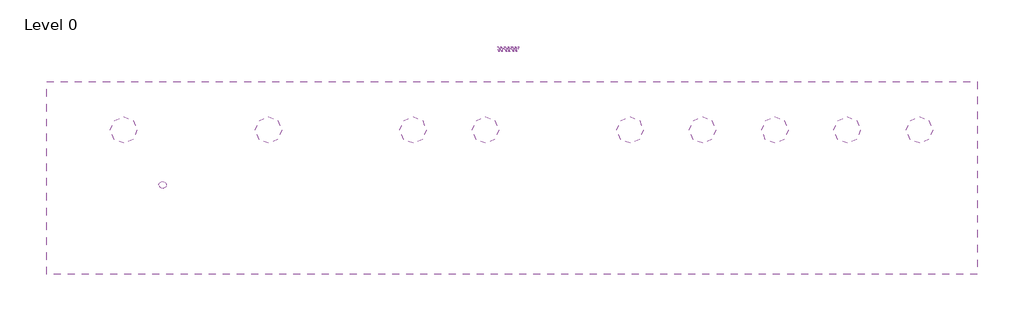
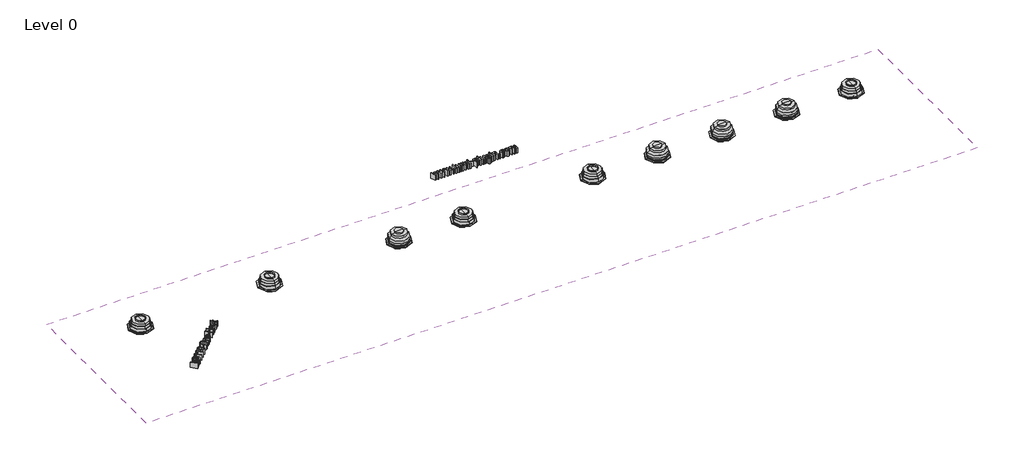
# One storey, incomplete: 9 light fixtures, 2 proxies, 1 covering.
"""IFC4 building model written with IfcOpenShell, lengths in millimetres."""

from ifc_helpers import new_model, si_unit, frame, origin, place, context, project, spatial, polyline, outline, extrude, transform, mapped, element, save
from components import light_fixture_3000k_4c776d6b, lp110_co_3000_k_61e16603, lp110_downlight_only_3000k_c44f5da2, lp110_emergency_co_3000_k_3e72ed9b, lp110_emergency_fl_3000_k_65061e34, lp110_pir_3000k_2e62d450, lp110_sprinkler_3000k_38dead4c, ls110_mains_smoke_one_smoke_8b9af0ea

model = new_model("IFC4")

# Units and contexts
model_context = context("Model", 3, world=origin())
ifc_project = project(units=[si_unit("LENGTHUNIT", "METRE", prefix="MILLI")], contexts=[model_context])

# Site, building, storey
site = spatial("IfcSite", under=ifc_project)
building = spatial("IfcBuilding", under=site)
storey = spatial("IfcBuildingStorey", under=building, Name="Level 0", Elevation=0.0)

# Proxies
placement = place(None, origin())
element("IfcBuildingElementProxy", 1, Name="30mm Arial", ObjectType="30mm Arial", at=placement, inside=storey, context=model_context, shape_type="SweptSolid", body=[
    extrude(outline(polyline([(-832.6158584, 833.9170129), (-839.3480989, 856.0487937), (-835.4338345, 856.0487937), (-831.6152194, 843.1361357), (-830.4747852, 838.5228955), (-829.540365, 842.96691), (-826.5016597, 856.0487937), (-822.0134993, 856.0487937), (-818.9895093, 843.0036982), (-818.158096, 838.9790692), (-816.9661584, 843.2244274), (-813.1401856, 856.0487937), (-809.2112059, 856.0487937), (-815.9949499, 833.9170129), (-820.549329, 833.9170129), (-823.4408815, 846.8958897), (-824.2796524, 850.9425916), (-828.0099759, 833.9170129), (-832.6158584, 833.9170129)])), frame((0.0, 0.0, 2575.0), z_axis=(0.0, 0.0, 1.0), x_axis=(1.0, 0.0, 0.0)), (0.0, 0.0, 1.0), 25.0),
    extrude(outline(polyline([(-802.9498543, 833.9170129), (-809.6820949, 856.0487937), (-805.7678304, 856.0487937), (-801.9492153, 843.1361357), (-800.8087811, 838.5228955), (-799.8743609, 842.96691), (-796.8356556, 856.0487937), (-792.3474952, 856.0487937), (-789.3235052, 843.0036982), (-788.4920919, 838.9790692), (-787.3001543, 843.2244274), (-783.4741815, 856.0487937), (-779.5452018, 856.0487937), (-786.3289458, 833.9170129), (-790.8833249, 833.9170129), (-793.7748774, 846.8958897), (-794.6136483, 850.9425916), (-798.3439718, 833.9170129), (-802.9498543, 833.9170129)])), frame((0.0, 0.0, 2575.0), z_axis=(0.0, 0.0, 1.0), x_axis=(1.0, 0.0, 0.0)), (0.0, 0.0, 1.0), 25.0),
    extrude(outline(polyline([(-773.2838503, 833.9170129), (-780.0160908, 856.0487937), (-776.1018263, 856.0487937), (-772.2832112, 843.1361357), (-771.142777, 838.5228955), (-770.2083568, 842.96691), (-767.1696515, 856.0487937), (-762.6814912, 856.0487937), (-759.6575012, 843.0036982), (-758.8260878, 838.9790692), (-757.6341502, 843.2244274), (-753.8081774, 856.0487937), (-749.8791977, 856.0487937), (-756.6629417, 833.9170129), (-761.2173208, 833.9170129), (-764.1088733, 846.8958897), (-764.9476442, 850.9425916), (-768.6779677, 833.9170129), (-773.2838503, 833.9170129)])), frame((0.0, 0.0, 2575.0), z_axis=(0.0, 0.0, 1.0), x_axis=(1.0, 0.0, 0.0)), (0.0, 0.0, 1.0), 25.0),
    extrude(outline(polyline([(-746.3475306, 833.9170129), (-746.3475306, 837.6841245), (-742.5804189, 837.6841245), (-742.5804189, 833.9170129), (-746.3475306, 833.9170129)])), frame((0.0, 0.0, 2575.0), z_axis=(0.0, 0.0, 1.0), x_axis=(1.0, 0.0, 0.0)), (0.0, 0.0, 1.0), 25.0),
    extrude(outline(polyline([(-735.5170846, 833.9170129), (-735.5170846, 864.053906), (-731.749973, 864.053906), (-731.749973, 833.9170129), (-735.5170846, 833.9170129)])), frame((0.0, 0.0, 2575.0), z_axis=(0.0, 0.0, 1.0), x_axis=(1.0, 0.0, 0.0)), (0.0, 0.0, 1.0), 25.0),
    extrude(outline(polyline([(-711.9726369, 833.9170129), (-711.9726369, 837.7209127), (-718.7710962, 833.446124), (-722.3137998, 834.1966032), (-724.7565363, 836.080159), (-725.8785764, 838.8539893), (-726.0993056, 842.3562259), (-726.0993056, 856.0487937), (-722.3321939, 856.0487937), (-722.3321939, 844.1294171), (-722.1041071, 840.2887291), (-720.614185, 838.0336124), (-717.8072454, 837.2132356), (-714.6618543, 838.0520065), (-712.583321, 840.3365537), (-711.9726369, 844.5340873), (-711.9726369, 856.0487937), (-708.2055253, 856.0487937), (-708.2055253, 833.9170129), (-711.9726369, 833.9170129)])), frame((0.0, 0.0, 2575.0), z_axis=(0.0, 0.0, 1.0), x_axis=(1.0, 0.0, 0.0)), (0.0, 0.0, 1.0), 25.0),
    extrude(outline(polyline([(-703.0257468, 833.9170129), (-703.0257468, 856.0487937), (-699.2586352, 856.0487937), (-699.2586352, 852.406762), (-696.6687459, 855.390285), (-692.9825683, 856.5196827), (-689.2080991, 855.368212), (-687.1332446, 852.1418869), (-680.4819382, 856.5196827), (-675.5559982, 854.6986668), (-673.8306317, 849.0884664), (-673.8306317, 833.9170129), (-677.5977433, 833.9170129), (-677.5977433, 847.4697856), (-677.9472312, 850.6151767), (-679.2127453, 852.1639599), (-681.3648549, 852.7525711), (-685.0694266, 851.2442549), (-686.5446334, 846.4102855), (-686.5446334, 833.9170129), (-690.3117451, 833.9170129), (-690.3117451, 847.8891711), (-691.1836254, 851.5385605), (-694.0420685, 852.7525711), (-696.830614, 851.9432307), (-698.6847393, 849.5740706), (-699.2586352, 845.0785526), (-699.2586352, 833.9170129), (-703.0257468, 833.9170129)])), frame((0.0, 0.0, 2575.0), z_axis=(0.0, 0.0, 1.0), x_axis=(1.0, 0.0, 0.0)), (0.0, 0.0, 1.0), 25.0),
    extrude(outline(polyline([(-668.1799642, 860.2867943), (-668.1799642, 864.053906), (-664.4128526, 864.053906), (-664.4128526, 860.2867943), (-668.1799642, 860.2867943)])), frame((0.0, 0.0, 2575.0), z_axis=(0.0, 0.0, 1.0), x_axis=(1.0, 0.0, 0.0)), (0.0, 0.0, 1.0), 25.0),
    extrude(outline(polyline([(-668.1799642, 833.9170129), (-668.1799642, 856.0487937), (-664.4128526, 856.0487937), (-664.4128526, 833.9170129), (-668.1799642, 833.9170129)])), frame((0.0, 0.0, 2575.0), z_axis=(0.0, 0.0, 1.0), x_axis=(1.0, 0.0, 0.0)), (0.0, 0.0, 1.0), 25.0),
    extrude(outline(polyline([(-660.645741, 842.863903), (-660.645741, 846.6310147), (-648.8735171, 846.6310147), (-648.8735171, 842.863903), (-660.645741, 842.863903)])), frame((0.0, 0.0, 2575.0), z_axis=(0.0, 0.0, 1.0), x_axis=(1.0, 0.0, 0.0)), (0.0, 0.0, 1.0), 25.0),
    extrude(outline(polyline([(-644.6355165, 825.4410117), (-644.6355165, 856.0487937), (-640.8684049, 856.0487937), (-640.8684049, 852.3552585), (-638.2638004, 855.4785766), (-634.7468485, 856.5196827), (-629.9717402, 855.06287), (-626.8521009, 850.9573069), (-625.7999584, 845.152129), (-626.9882172, 839.0489667), (-630.4389503, 834.8919002), (-635.2030222, 833.446124), (-638.4808508, 834.4136536), (-640.8684049, 836.8600689), (-640.8684049, 825.4410117), (-644.6355165, 825.4410117)]), holes=[polyline([(-640.8684049, 844.80632), (-639.2386877, 839.0673608), (-635.2839562, 837.2132356), (-631.2482907, 839.1335796), (-629.56707, 845.0859103), (-631.2078237, 850.8395847), (-635.1294458, 852.7525711), (-639.1283231, 850.7181836), (-640.8684049, 844.80632)])]), frame((0.0, 0.0, 2575.0), z_axis=(0.0, 0.0, 1.0), x_axis=(1.0, 0.0, 0.0)), (0.0, 0.0, 1.0), 25.0),
    extrude(outline(polyline([(-621.5619578, 833.9170129), (-621.5619578, 864.053906), (-617.7948462, 864.053906), (-617.7948462, 833.9170129), (-621.5619578, 833.9170129)])), frame((0.0, 0.0, 2575.0), z_axis=(0.0, 0.0, 1.0), x_axis=(1.0, 0.0, 0.0)), (0.0, 0.0, 1.0), 25.0),
    extrude(outline(polyline([(-598.0175101, 833.9170129), (-598.0175101, 837.7209127), (-604.8159694, 833.446124), (-608.358673, 834.1966032), (-610.8014094, 836.080159), (-611.9234495, 838.8539893), (-612.1441787, 842.3562259), (-612.1441787, 856.0487937), (-608.3770671, 856.0487937), (-608.3770671, 844.1294171), (-608.1489803, 840.2887291), (-606.6590582, 838.0336124), (-603.8521186, 837.2132356), (-600.7067275, 838.0520065), (-598.6281942, 840.3365537), (-598.0175101, 844.5340873), (-598.0175101, 856.0487937), (-594.2503985, 856.0487937), (-594.2503985, 833.9170129), (-598.0175101, 833.9170129)])), frame((0.0, 0.0, 2575.0), z_axis=(0.0, 0.0, 1.0), x_axis=(1.0, 0.0, 0.0)), (0.0, 0.0, 1.0), 25.0),
    extrude(outline(polyline([(-590.0123979, 832.0334571), (-586.2452863, 831.5625681), (-585.023918, 829.5760054), (-581.367171, 828.7372344), (-577.5117677, 829.68637), (-575.6723577, 832.3498356), (-575.4148403, 836.7423466), (-581.3009523, 833.9170129), (-588.0810174, 837.2058779), (-590.4832869, 845.0932679), (-589.4053926, 850.9315552), (-586.2857533, 855.06287), (-581.4848932, 856.5196827), (-575.4148403, 853.22346), (-575.4148403, 856.0487937), (-571.6477287, 856.0487937), (-571.6477287, 836.9410029), (-572.6777983, 829.62383), (-575.9409116, 826.2209216), (-581.4407474, 824.9701228), (-587.7057778, 826.7322775), (-590.0123979, 832.0334571)]), holes=[polyline([(-586.7161752, 845.3507853), (-585.1085309, 839.5198557), (-581.0728654, 837.6841245), (-577.0445576, 839.5088192), (-575.4148403, 845.2404207), (-577.0923822, 850.8579788), (-581.1317265, 852.7525711), (-585.086458, 850.8874093), (-586.7161752, 845.3507853)])]), frame((0.0, 0.0, 2575.0), z_axis=(0.0, 0.0, 1.0), x_axis=(1.0, 0.0, 0.0)), (0.0, 0.0, 1.0), 25.0),
    extrude(outline(polyline([(-565.9970613, 860.2867943), (-565.9970613, 864.053906), (-562.2299496, 864.053906), (-562.2299496, 860.2867943), (-565.9970613, 860.2867943)])), frame((0.0, 0.0, 2575.0), z_axis=(0.0, 0.0, 1.0), x_axis=(1.0, 0.0, 0.0)), (0.0, 0.0, 1.0), 25.0),
    extrude(outline(polyline([(-565.9970613, 833.9170129), (-565.9970613, 856.0487937), (-562.2299496, 856.0487937), (-562.2299496, 833.9170129), (-565.9970613, 833.9170129)])), frame((0.0, 0.0, 2575.0), z_axis=(0.0, 0.0, 1.0), x_axis=(1.0, 0.0, 0.0)), (0.0, 0.0, 1.0), 25.0),
    extrude(outline(polyline([(-556.5792822, 833.9170129), (-556.5792822, 856.0487937), (-552.8121705, 856.0487937), (-552.8121705, 852.958585), (-545.998996, 856.5196827), (-542.4415771, 855.8023128), (-540.0135559, 853.918757), (-538.8841582, 851.1486056), (-538.6855019, 847.5065738), (-538.6855019, 833.9170129), (-542.4526136, 833.9170129), (-542.4526136, 846.9988967), (-542.8867143, 850.3319075), (-544.4207822, 852.0940623), (-547.0069927, 852.7525711), (-551.0941616, 851.2736854), (-552.8121705, 845.6598062), (-552.8121705, 833.9170129), (-556.5792822, 833.9170129)])), frame((0.0, 0.0, 2575.0), z_axis=(0.0, 0.0, 1.0), x_axis=(1.0, 0.0, 0.0)), (0.0, 0.0, 1.0), 25.0),
    extrude(outline(polyline([(-532.5639455, 833.9170129), (-532.5639455, 837.6841245), (-528.7968339, 837.6841245), (-528.7968339, 833.9170129), (-532.5639455, 833.9170129)])), frame((0.0, 0.0, 2575.0), z_axis=(0.0, 0.0, 1.0), x_axis=(1.0, 0.0, 0.0)), (0.0, 0.0, 1.0), 25.0),
    extrude(outline(polyline([(-507.606831, 841.9221251), (-503.8397193, 841.4512362), (-506.8637093, 835.5688031), (-512.8381129, 833.446124), (-519.9787025, 836.407574), (-522.6752775, 844.9019693), (-521.5238069, 851.159642), (-518.0142126, 855.1805922), (-512.8896164, 856.5196827), (-507.1616938, 854.6802727), (-504.3106083, 849.4563484), (-508.0777199, 848.9854594), (-509.8251594, 851.8071143), (-512.8601859, 852.7525711), (-517.2269452, 850.8910882), (-518.9081659, 845.0049762), (-517.2637334, 839.063682), (-512.9631928, 837.2132356), (-509.4131316, 838.3683851), (-507.606831, 841.9221251)])), frame((0.0, 0.0, 2575.0), z_axis=(0.0, 0.0, 1.0), x_axis=(1.0, 0.0, 0.0)), (0.0, 0.0, 1.0), 25.0),
    extrude(outline(polyline([(-501.4852746, 844.9829033), (-498.2258401, 854.0695886), (-491.5892489, 856.5196827), (-484.4707323, 853.5361597), (-481.7079385, 845.2919242), (-482.9293067, 838.5891142), (-486.4867256, 834.7962509), (-491.5892489, 833.446124), (-498.7519114, 836.4186105), (-501.4852746, 844.9829033)]), holes=[polyline([(-497.7181629, 844.990261), (-495.9744023, 839.1519737), (-491.5892489, 837.2132356), (-487.2188108, 839.1630102), (-485.4750501, 845.1079832), (-487.2298473, 850.8138329), (-491.5892489, 852.7525711), (-495.9744023, 850.8211906), (-497.7181629, 844.990261)])]), frame((0.0, 0.0, 2575.0), z_axis=(0.0, 0.0, 1.0), x_axis=(1.0, 0.0, 0.0)), (0.0, 0.0, 1.0), 25.0),
    extrude(outline(polyline([(-477.4699379, 833.9170129), (-477.4699379, 856.0487937), (-473.7028263, 856.0487937), (-473.7028263, 852.406762), (-471.1129371, 855.390285), (-467.4267595, 856.5196827), (-463.6522902, 855.368212), (-461.5774357, 852.1418869), (-454.9261293, 856.5196827), (-450.0001894, 854.6986668), (-448.2748228, 849.0884664), (-448.2748228, 833.9170129), (-452.0419344, 833.9170129), (-452.0419344, 847.4697856), (-452.3914223, 850.6151767), (-453.6569364, 852.1639599), (-455.8090461, 852.7525711), (-459.5136177, 851.2442549), (-460.9888245, 846.4102855), (-460.9888245, 833.9170129), (-464.7559362, 833.9170129), (-464.7559362, 847.8891711), (-465.6278165, 851.5385605), (-468.4862596, 852.7525711), (-471.2748051, 851.9432307), (-473.1289304, 849.5740706), (-473.7028263, 845.0785526), (-473.7028263, 833.9170129), (-477.4699379, 833.9170129)])), frame((0.0, 0.0, 2575.0), z_axis=(0.0, 0.0, 1.0), x_axis=(1.0, 0.0, 0.0)), (0.0, 0.0, 1.0), 25.0),
])
element("IfcBuildingElementProxy", 2, Name="30mm Arial", ObjectType="30mm Arial", at=placement, inside=storey, context=model_context, shape_type="SweptSolid", body=[
    extrude(outline(polyline([(-2318.8382256, 168.2227762), (-2340.1482271, 189.5327776), (-2337.4844769, 192.1965278), (-2318.8382256, 173.5502766), (-2308.1832249, 184.2052773), (-2305.5194747, 181.5415271), (-2318.8382256, 168.2227762)])), frame((0.0, 0.0, 2575.0), z_axis=(0.0, 0.0, 1.0), x_axis=(1.0, 0.0, 0.0)), (0.0, 0.0, 1.0), 25.0),
    extrude(outline(polyline([(-2310.8469751, 190.8646527), (-2308.1832249, 193.5284029), (-2304.6584383, 191.7204865), (-2300.8761212, 192.1314949), (-2297.0391763, 194.6833883), (-2294.742212, 197.9532457), (-2294.2817787, 201.0878346), (-2295.4783852, 203.4654397), (-2297.5828519, 204.6854581), (-2300.6029827, 204.0845535), (-2305.4986642, 201.2231031), (-2310.9874463, 198.3616528), (-2315.2353995, 198.078109), (-2318.6301202, 199.9796729), (-2320.7215803, 203.9180691), (-2320.1518915, 208.743515), (-2316.9288578, 213.4180844), (-2311.9551368, 216.8726354), (-2306.9137815, 217.4501282), (-2302.5227558, 215.1713731), (-2305.186506, 212.5076229), (-2309.4318578, 213.7354453), (-2314.1610549, 210.858387), (-2317.0589238, 206.1291899), (-2316.0444095, 202.7214626), (-2313.3494435, 201.7225563), (-2307.5120847, 204.5840067), (-2301.4614178, 207.9605181), (-2296.7244168, 208.3793304), (-2292.8822693, 206.1968242), (-2290.650338, 202.0555251), (-2291.0717516, 196.9829539), (-2294.2713734, 192.1236909), (-2299.9240386, 188.2607329), (-2305.6287301, 187.9459733), (-2310.8469751, 190.8646527)])), frame((0.0, 0.0, 2575.0), z_axis=(0.0, 0.0, 1.0), x_axis=(1.0, 0.0, 0.0)), (0.0, 0.0, 1.0), 25.0),
    extrude(outline(polyline([(-2273.8874414, 213.1735605), (-2276.5511915, 210.5098103), (-2293.1580091, 227.1166278), (-2293.8837769, 222.7958377), (-2295.3431166, 218.6467347), (-2297.861193, 221.164811), (-2296.448677, 227.5614533), (-2296.914313, 232.7666917), (-2295.1974428, 234.4835619), (-2273.8874414, 213.1735605)])), frame((0.0, 0.0, 2575.0), z_axis=(0.0, 0.0, 1.0), x_axis=(1.0, 0.0, 0.0)), (0.0, 0.0, 1.0), 25.0),
    extrude(outline(polyline([(-2257.5719715, 229.4890303), (-2260.2357217, 226.8252802), (-2276.8425392, 243.4320977), (-2277.5683071, 239.1113076), (-2279.0276468, 234.9622045), (-2281.5457231, 237.4802809), (-2280.1332072, 243.8769232), (-2280.5988432, 249.0821615), (-2278.8819729, 250.7990318), (-2257.5719715, 229.4890303)])), frame((0.0, 0.0, 2575.0), z_axis=(0.0, 0.0, 1.0), x_axis=(1.0, 0.0, 0.0)), (0.0, 0.0, 1.0), 25.0),
    extrude(outline(polyline([(-2261.7288785, 246.2987507), (-2267.0771894, 253.2130554), (-2268.2868025, 259.073826), (-2265.563222, 264.1177827), (-2261.765297, 266.5422115), (-2257.6370045, 266.7112973), (-2253.2355735, 264.8071321), (-2247.7441901, 260.2834392), (-2242.4140884, 253.4029516), (-2241.1888674, 247.542181), (-2243.9202518, 242.4748125), (-2250.8189486, 239.6341726), (-2261.7288785, 246.2987507)]), holes=[polyline([(-2259.070331, 248.9677035), (-2251.2065451, 243.6011834), (-2246.584002, 245.1385626), (-2245.0518254, 249.7663083), (-2250.4131429, 257.6248916), (-2258.1598695, 262.9575946), (-2262.9306877, 261.4228167), (-2264.5122894, 256.9901699), (-2259.070331, 248.9677035)])]), frame((0.0, 0.0, 2575.0), z_axis=(0.0, 0.0, 1.0), x_axis=(1.0, 0.0, 0.0)), (0.0, 0.0, 1.0), 25.0),
    extrude(outline(polyline([(-2236.979934, 270.8291845), (-2242.4166897, 281.9472199), (-2238.0776904, 292.2692519), (-2231.3714912, 296.166027), (-2223.8536807, 295.8486662), (-2216.9133628, 291.3848036), (-2212.4364936, 284.3014132), (-2212.2700092, 276.7471842), (-2216.1173593, 270.277705), (-2222.9250099, 266.3679232), (-2230.4584284, 266.7425131), (-2236.979934, 270.8291845)]), holes=[polyline([(-2234.2901706, 273.4669215), (-2226.2859135, 269.7236241), (-2218.7967174, 272.9258472), (-2215.5684811, 280.4826776), (-2219.5979235, 288.7418639), (-2224.8994107, 292.2328334), (-2230.4558271, 292.4981679), (-2235.3983323, 289.6211096), (-2238.7098108, 282.3296137), (-2234.2901706, 273.4669215)])]), frame((0.0, 0.0, 2575.0), z_axis=(0.0, 0.0, 1.0), x_axis=(1.0, 0.0, 0.0)), (0.0, 0.0, 1.0), 25.0),
    extrude(outline(polyline([(-2202.9650928, 284.095909), (-2218.6146251, 299.7454413), (-2215.950875, 302.4091915), (-2213.7657674, 300.2240839), (-2211.4662018, 307.5598022), (-2208.4434697, 309.5680201), (-2205.3947243, 309.9530153), (-2202.6373267, 308.7928272), (-2199.9215501, 306.357993), (-2190.3122795, 296.7487224), (-2192.9760297, 294.0849722), (-2202.2263184, 303.3352609), (-2204.8900685, 305.3850999), (-2207.2208499, 305.5463817), (-2209.5152129, 304.1832907), (-2211.3595477, 300.2474958), (-2208.6047514, 295.063068), (-2200.3013426, 286.7596592), (-2202.9650928, 284.095909)])), frame((0.0, 0.0, 2575.0), z_axis=(0.0, 0.0, 1.0), x_axis=(1.0, 0.0, 0.0)), (0.0, 0.0, 1.0), 25.0),
    extrude(outline(polyline([(-2180.3544321, 316.0296953), (-2177.4097395, 318.3084504), (-2176.4134345, 312.4268692), (-2179.7405209, 306.6545434), (-2187.3805935, 303.2338095), (-2195.3432295, 307.1071728), (-2199.3908812, 315.2857182), (-2196.2068673, 322.8191367), (-2188.8321292, 325.8548755), (-2180.7082114, 321.7734067), (-2191.9771233, 309.068567), (-2186.9851931, 307.1409899), (-2182.3522448, 309.3703199), (-2180.2972031, 312.5387259), (-2180.3544321, 316.0296953)]), holes=[polyline([(-2194.6408735, 311.7323171), (-2185.3177479, 321.0554428), (-2188.7983121, 322.4029258), (-2193.5535224, 320.1449813), (-2195.83748, 315.8684136), (-2194.6408735, 311.7323171)])]), frame((0.0, 0.0, 2575.0), z_axis=(0.0, 0.0, 1.0), x_axis=(1.0, 0.0, 0.0)), (0.0, 0.0, 1.0), 25.0),
    extrude(outline(polyline([(-2177.9924349, 321.7213803), (-2180.6561851, 324.3851305), (-2172.3319658, 332.7093498), (-2169.6682156, 330.0455996), (-2177.9924349, 321.7213803)])), frame((0.0, 0.0, 2575.0), z_axis=(0.0, 0.0, 1.0), x_axis=(1.0, 0.0, 0.0)), (0.0, 0.0, 1.0), 25.0),
    extrude(outline(polyline([(-2160.0121212, 327.0488807), (-2181.3221226, 348.3588821), (-2178.6583724, 351.0226323), (-2170.0011844, 342.3654442), (-2158.6802461, 353.6863825), (-2167.3374342, 362.3435705), (-2164.673684, 365.0073207), (-2143.3636826, 343.6973193), (-2146.0274327, 341.0335691), (-2156.0164959, 351.0226323), (-2167.3374342, 339.701694), (-2157.348371, 329.7126308), (-2160.0121212, 327.0488807)])), frame((0.0, 0.0, 2575.0), z_axis=(0.0, 0.0, 1.0), x_axis=(1.0, 0.0, 0.0)), (0.0, 0.0, 1.0), 25.0),
    extrude(outline(polyline([(-2132.7398977, 363.6442298), (-2129.7952051, 365.9229848), (-2128.7989001, 360.0414036), (-2132.1259865, 354.2690778), (-2139.766059, 350.8483439), (-2147.7286951, 354.7217072), (-2151.7763467, 362.9002527), (-2148.5923328, 370.4336712), (-2141.2175948, 373.4694099), (-2133.093677, 369.3879411), (-2144.3625889, 356.6831014), (-2139.3706586, 354.7555244), (-2134.7377103, 356.9848544), (-2132.6826687, 360.1532603), (-2132.7398977, 363.6442298)]), holes=[polyline([(-2147.0263391, 359.3468516), (-2137.7032134, 368.6699772), (-2141.1837776, 370.0174602), (-2145.9389879, 367.7595157), (-2148.2229456, 363.4829481), (-2147.0263391, 359.3468516)])]), frame((0.0, 0.0, 2575.0), z_axis=(0.0, 0.0, 1.0), x_axis=(1.0, 0.0, 0.0)), (0.0, 0.0, 1.0), 25.0),
    extrude(outline(polyline([(-2114.7283681, 376.328259), (-2115.5061624, 371.9398346), (-2117.8343425, 368.5607218), (-2122.9667439, 365.956802), (-2127.5476659, 367.8375553), (-2129.1448754, 370.4544817), (-2129.3347717, 373.3237361), (-2128.3436693, 376.0629245), (-2126.4395042, 378.7682958), (-2122.7352266, 384.3039016), (-2126.0128879, 386.1456351), (-2129.7275708, 383.9709328), (-2131.9100771, 380.7635071), (-2131.3768068, 377.6601341), (-2134.3735257, 375.3293527), (-2135.8224601, 379.0830553), (-2135.0264567, 382.9278041), (-2132.0479469, 386.9780571), (-2128.3462707, 389.7328534), (-2125.3339438, 390.3675751), (-2122.7092134, 389.3764728), (-2120.2483661, 387.1757573), (-2116.9342862, 383.8616775), (-2112.171272, 379.3692003), (-2109.4008678, 377.6601341), (-2112.064618, 374.9963839), (-2114.7283681, 376.328259)]), holes=[polyline([(-2119.6864813, 381.2707642), (-2123.5364327, 376.5415671), (-2125.3963754, 373.8179866), (-2125.7319455, 372.0777045), (-2122.836678, 370.0408721), (-2119.9310052, 371.7915595), (-2117.8733622, 375.1238485), (-2117.6782633, 378.4041112), (-2119.6864813, 381.2707642)])]), frame((0.0, 0.0, 2575.0), z_axis=(0.0, 0.0, 1.0), x_axis=(1.0, 0.0, 0.0)), (0.0, 0.0, 1.0), 25.0),
    extrude(outline(polyline([(-2102.9652057, 388.5388482), (-2100.3326714, 386.5722514), (-2102.0703521, 384.3247122), (-2104.7445076, 382.535005), (-2107.01806, 382.5818287), (-2110.3633556, 385.2819974), (-2119.0569622, 393.9756039), (-2121.0547748, 391.9777913), (-2123.718525, 394.6415415), (-2121.7207124, 396.6393541), (-2125.52384, 400.4424818), (-2124.4260836, 404.6722257), (-2119.0569622, 399.3031043), (-2116.393212, 401.9668545), (-2113.7294618, 399.3031043), (-2116.393212, 396.6393541), (-2107.777645, 388.0237871), (-2106.2636776, 386.7907621), (-2102.9652057, 388.5388482)])), frame((0.0, 0.0, 2575.0), z_axis=(0.0, 0.0, 1.0), x_axis=(1.0, 0.0, 0.0)), (0.0, 0.0, 1.0), 25.0),
])

# Covering
element("IfcCovering", 3, ObjectType="Plain", at=placement, inside=storey, context=model_context, shape_type="SweptSolid", body=[
    extrude(outline(polyline([(1151.8211197, 709.1983118), (1151.8211197, -90.8016882), (-2708.1788803, -90.8016882), (-2708.1788803, 709.1983118), (1151.8211197, 709.1983118)])), frame((0.0, 0.0, 2600.0), z_axis=(0.0, 0.0, 1.0), x_axis=(1.0, 0.0, 0.0)), (0.0, 0.0, 1.0), 12.5),
])

# Light fixtures
light_fixture_3000k_shape = light_fixture_3000k_4c776d6b(model_context)
element("IfcLightFixture", 4, ObjectType="Lumi-Smoke : 3000K", at=placement, inside=storey, context=model_context, shape_type="MappedRepresentation", body=[
    mapped(light_fixture_3000k_shape, transform((-1788.1871089, 509.1983118, -1400.0), x_axis=(1.0, 0.0, 0.0), y_axis=(0.0, 1.0, 0.0), z_axis=(0.0, 0.0, 1.0))),
])
lp110_co_3000_k_shape = lp110_co_3000_k_61e16603(model_context)
element("IfcLightFixture", 5, ObjectType="LP110 CO : 3000 K", at=placement, inside=storey, context=model_context, shape_type="MappedRepresentation", body=[
    mapped(lp110_co_3000_k_shape, transform((911.8211197, 509.1983118, -1400.0), x_axis=(1.0, 0.0, 0.0), y_axis=(0.0, 1.0, 0.0), z_axis=(0.0, 0.0, 1.0))),
])
lp110_downlight_only_3000k_shape = lp110_downlight_only_3000k_c44f5da2(model_context)
element("IfcLightFixture", 6, ObjectType="LP110 Downlight Only : 3000K", at=placement, inside=storey, context=model_context, shape_type="MappedRepresentation", body=[
    mapped(lp110_downlight_only_3000k_shape, transform((-288.1788803, 509.1983118, -1400.0), x_axis=(1.0, 0.0, 0.0), y_axis=(0.0, 1.0, 0.0), z_axis=(0.0, 0.0, 1.0))),
])
lp110_emergency_co_3000_k_shape = lp110_emergency_co_3000_k_3e72ed9b(model_context)
element("IfcLightFixture", 7, ObjectType="LP110 Emergency (CO) : 3000 K", at=placement, inside=storey, context=model_context, shape_type="MappedRepresentation", body=[
    mapped(lp110_emergency_co_3000_k_shape, transform((11.8211197, 509.1983118, -1400.0), x_axis=(1.0, 0.0, 0.0), y_axis=(0.0, 1.0, 0.0), z_axis=(0.0, 0.0, 1.0))),
])
lp110_emergency_fl_3000_k_shape = lp110_emergency_fl_3000_k_65061e34(model_context)
element("IfcLightFixture", 8, ObjectType="LP110 Emergency (FL) : 3000 K", at=placement, inside=storey, context=model_context, shape_type="MappedRepresentation", body=[
    mapped(lp110_emergency_fl_3000_k_shape, transform((311.8211197, 509.1983118, -1400.0), x_axis=(1.0, 0.0, 0.0), y_axis=(0.0, 1.0, 0.0), z_axis=(0.0, 0.0, 1.0))),
])
element("IfcLightFixture", 9, ObjectType="LP110 Emergency (HT) : 3000 K", at=placement, inside=storey, context=model_context, shape_type="MappedRepresentation", body=[
    mapped(lp110_emergency_co_3000_k_shape, transform((611.8211197, 509.1983118, -1400.0), x_axis=(1.0, 0.0, 0.0), y_axis=(0.0, 1.0, 0.0), z_axis=(0.0, 0.0, 1.0))),
])
lp110_pir_3000k_shape = lp110_pir_3000k_2e62d450(model_context)
element("IfcLightFixture", 10, ObjectType="LP110 PIR : 3000K", at=placement, inside=storey, context=model_context, shape_type="MappedRepresentation", body=[
    mapped(lp110_pir_3000k_shape, transform((-1188.1788803, 509.1983118, -1400.0), x_axis=(1.0, 0.0, 0.0), y_axis=(0.0, 1.0, 0.0), z_axis=(0.0, 0.0, 1.0))),
])
lp110_sprinkler_3000k_shape = lp110_sprinkler_3000k_38dead4c(model_context)
element("IfcLightFixture", 11, ObjectType="LP110 Sprinkler : 3000K", at=placement, inside=storey, context=model_context, shape_type="MappedRepresentation", body=[
    mapped(lp110_sprinkler_3000k_shape, transform((-888.1788803, 509.1983118, -1400.0), x_axis=(1.0, 0.0, 0.0), y_axis=(0.0, 1.0, 0.0), z_axis=(0.0, 0.0, 1.0))),
])
ls110_mains_smoke_one_smoke_shape = ls110_mains_smoke_one_smoke_8b9af0ea(model_context)
element("IfcLightFixture", 12, ObjectType="LS110 Mains Smoke : One-Smoke", at=placement, inside=storey, context=model_context, shape_type="MappedRepresentation", body=[
    mapped(ls110_mains_smoke_one_smoke_shape, transform((-2388.1788803, 509.1983118, -1400.0), x_axis=(1.0, 0.0, 0.0), y_axis=(0.0, 1.0, 0.0), z_axis=(0.0, 0.0, 1.0))),
])

save(model, "model.ifc")
